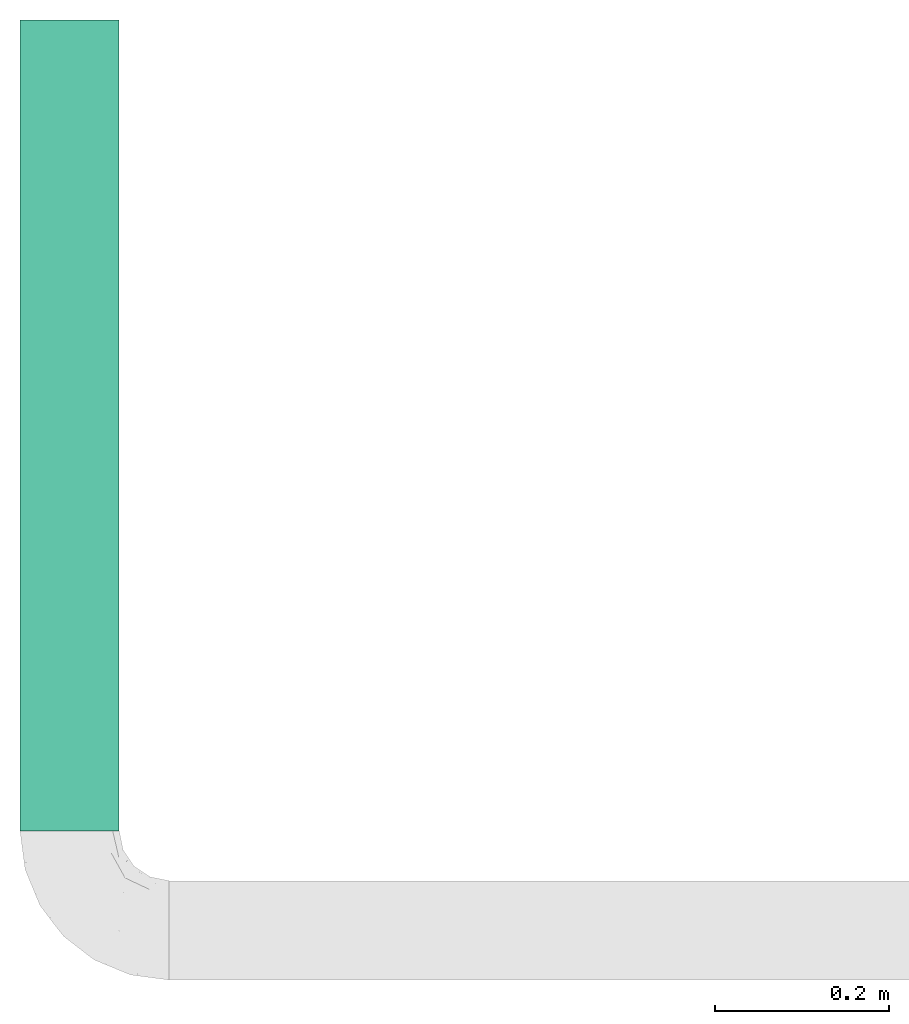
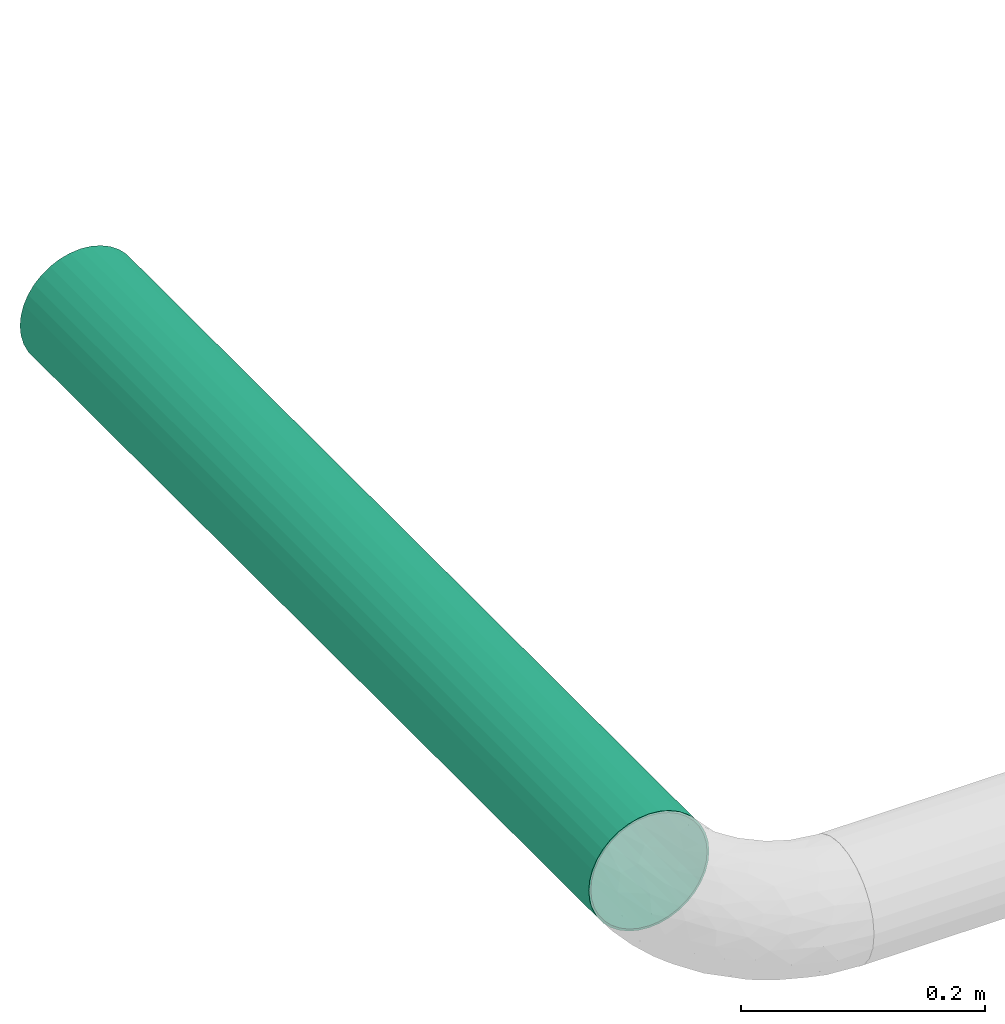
# One storey, part 2 of 2: 1 flow segment.
"""IFC2X3 building model written with IfcOpenShell, lengths in millimetres."""

from ifc_helpers import new_model, entity, si_unit, converted_unit, derived_unit, direction, frame, place, context, subcontext, project, spatial, faceted_brep, type_object, element, save


model = new_model("IFC2X3")

# Units and contexts
model_context = context("Model", 3, precision=0.01, world=frame((0.0, 4.29681676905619e-09, 0.0)), true_north=direction((4.01073788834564e-13, 1.0)))
plan_context = context("Plan", 3, precision=0.01, world=frame((0.0, 4.29681676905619e-09, 0.0)), true_north=direction((4.01073788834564e-13, 1.0)))
body_context = subcontext(model_context, "Body", "Model", "MODEL_VIEW")
ifc_project = project(units=[converted_unit("PLANEANGLEUNIT", "DEGREE", entity("IfcPositiveLengthMeasure", 0.0174532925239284), si_unit("PLANEANGLEUNIT", "RADIAN"), dimensions=[0, 0, 0, 0, 0, 0, 0]), si_unit("AREAUNIT", "SQUARE_METRE"), si_unit("LENGTHUNIT", "METRE", prefix="MILLI"), si_unit("MASSUNIT", "GRAM", prefix="KILO"), si_unit("POWERUNIT", "WATT"), si_unit("PRESSUREUNIT", "PASCAL"), si_unit("FORCEUNIT", "NEWTON", prefix="KILO"), si_unit("ELECTRICVOLTAGEUNIT", "VOLT"), si_unit("ELECTRICCURRENTUNIT", "AMPERE"), si_unit("THERMODYNAMICTEMPERATUREUNIT", "DEGREE_CELSIUS"), si_unit("TIMEUNIT", "SECOND"), si_unit("VOLUMEUNIT", "CUBIC_METRE"), derived_unit("LINEARVELOCITYUNIT", [(si_unit("LENGTHUNIT", "METRE"), 1), (si_unit("TIMEUNIT", "SECOND"), -1)]), derived_unit("VOLUMETRICFLOWRATEUNIT", [(si_unit("VOLUMEUNIT", "CUBIC_METRE"), 1), (si_unit("TIMEUNIT", "SECOND"), -1)]), derived_unit("THERMALTRANSMITTANCEUNIT", [(si_unit("POWERUNIT", "WATT"), 1), (si_unit("THERMODYNAMICTEMPERATUREUNIT", "KELVIN"), -1), (si_unit("AREAUNIT", "SQUARE_METRE"), -1)]), derived_unit("SOUNDPRESSUREUNIT", [(si_unit("PRESSUREUNIT", "PASCAL"), 1)])], contexts=[model_context, plan_context])

# Site, building, storey
site_placement = place(None, frame((0.0, -4.29681676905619e-09, 0.0), z_axis=(0.0, 0.0, 1.0), x_axis=(1.0, 0.0, 0.0)))
site = spatial("IfcSite", under=ifc_project, at=site_placement, Name="ENGM", CompositionType="ELEMENT")
building_placement = place(site_placement, frame((0.0, 4.29681676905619e-09, 0.0), z_axis=(0.0, 0.0, 1.0), x_axis=(1.0, 0.0, 0.0)))
building = spatial("IfcBuilding", under=site, at=building_placement, Name="TI", CompositionType="ELEMENT")
storey_placement = place(building_placement, frame((0.0, 0.0, 200300.0), z_axis=(0.0, 0.0, 1.0), x_axis=(1.0, 0.0, 0.0)))
storey = spatial("IfcBuildingStorey", under=building, at=storey_placement, Name="Nivå C", CompositionType="ELEMENT", Elevation=200300.0)

# Flow segment
pipe_segment_type = type_object("IfcPipeSegmentType", Name="Stålrør normaltykke", PredefinedType="RIGIDSEGMENT")
flow_segment_placement = place(storey_placement, frame((602433.58995, 698541.41935, 9979.99974999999), z_axis=(0.0, 0.0, 1.0), x_axis=(0.0, 1.0, 0.0)))
element("IfcFlowSegment", 1, at=flow_segment_placement, inside=storey, type_object=pipe_segment_type, Name="Stålrør normaltykke", context=body_context, shape_type="Brep", body=[
    faceted_brep([(934.08064999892, 55.1, 0.0), (934.08064999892, 54.2629071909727, -9.56801458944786), (0.0, 54.2629071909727, -9.56801458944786), (0.0, 55.1, 0.0), (934.08064999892, 51.7770634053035, -18.8453098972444), (0.0, 51.7770634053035, -18.8453098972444), (934.08064999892, 47.7179997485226, -27.55), (0.0, 47.7179997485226, -27.55), (934.08064999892, 42.2090488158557, -35.4175972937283), (0.0, 42.2090488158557, -35.4175972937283), (934.08064999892, 35.4175972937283, -42.2090488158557), (0.0, 35.4175972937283, -42.2090488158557), (934.08064999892, 27.55, -47.7179997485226), (0.0, 27.55, -47.7179997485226), (934.08064999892, 18.8453098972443, -51.7770634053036), (0.0, 18.8453098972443, -51.7770634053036), (934.08064999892, 9.56801458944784, -54.2629071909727), (0.0, 9.56801458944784, -54.2629071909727), (934.08064999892, -1.01217057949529e-14, -55.1), (0.0, -1.01217057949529e-14, -55.1), (934.08064999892, -9.56801458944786, -54.2629071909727), (0.0, -9.56801458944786, -54.2629071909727), (934.08064999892, -18.8453098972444, -51.7770634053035), (0.0, -18.8453098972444, -51.7770634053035), (934.08064999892, -27.55, -47.7179997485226), (0.0, -27.55, -47.7179997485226), (934.08064999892, -35.4175972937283, -42.2090488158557), (0.0, -35.4175972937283, -42.2090488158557), (934.08064999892, -42.2090488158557, -35.4175972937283), (0.0, -42.2090488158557, -35.4175972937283), (934.08064999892, -47.7179997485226, -27.55), (0.0, -47.7179997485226, -27.55), (934.08064999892, -51.7770634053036, -18.8453098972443), (0.0, -51.7770634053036, -18.8453098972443), (934.08064999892, -54.2629071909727, -9.56801458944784), (0.0, -54.2629071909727, -9.56801458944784), (934.08064999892, -55.1, 6.74780386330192e-15), (0.0, -55.1, 6.74780386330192e-15), (934.08064999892, -54.2629071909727, 9.56801458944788), (0.0, -54.2629071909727, 9.56801458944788), (934.08064999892, -51.7770634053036, 18.8453098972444), (0.0, -51.7770634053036, 18.8453098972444), (934.08064999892, -47.7179997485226, 27.55), (0.0, -47.7179997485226, 27.55), (934.08064999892, -42.2090488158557, 35.4175972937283), (0.0, -42.2090488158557, 35.4175972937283), (934.08064999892, -35.4175972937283, 42.2090488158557), (0.0, -35.4175972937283, 42.2090488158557), (934.08064999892, -27.55, 47.7179997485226), (0.0, -27.55, 47.7179997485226), (934.08064999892, -18.8453098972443, 51.7770634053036), (0.0, -18.8453098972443, 51.7770634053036), (934.08064999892, -9.56801458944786, 54.2629071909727), (0.0, -9.56801458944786, 54.2629071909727), (934.08064999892, 3.37390193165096e-15, 55.1), (0.0, 3.37390193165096e-15, 55.1), (934.08064999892, 9.56801458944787, 54.2629071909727), (0.0, 9.56801458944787, 54.2629071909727), (934.08064999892, 18.8453098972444, 51.7770634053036), (0.0, 18.8453098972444, 51.7770634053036), (934.08064999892, 27.55, 47.7179997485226), (0.0, 27.55, 47.7179997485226), (934.08064999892, 35.4175972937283, 42.2090488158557), (0.0, 35.4175972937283, 42.2090488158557), (934.08064999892, 42.2090488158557, 35.4175972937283), (0.0, 42.2090488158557, 35.4175972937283), (934.08064999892, 47.7179997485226, 27.55), (0.0, 47.7179997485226, 27.55), (934.08064999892, 51.7770634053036, 18.8453098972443), (0.0, 51.7770634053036, 18.8453098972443), (934.08064999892, 54.2629071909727, 9.56801458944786), (0.0, 54.2629071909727, 9.56801458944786), (934.08064999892, 56.2325226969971, -9.91531094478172), (934.08064999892, 57.1, 0.0), (0.0, 57.1, 0.0), (0.0, 56.2325226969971, -9.91531094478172), (934.08064999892, 56.2325226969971, 9.91531094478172), (0.0, 56.2325226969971, 9.91531094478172), (934.08064999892, 53.6564486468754, 19.5293501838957), (0.0, 53.6564486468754, 19.5293501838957), (934.08064999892, 49.4500505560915, 28.55), (0.0, 49.4500505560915, 28.55), (934.08064999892, 43.7411377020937, 36.7031725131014), (0.0, 43.7411377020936, 36.7031725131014), (934.08064999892, 36.7031725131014, 43.7411377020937), (0.0, 36.7031725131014, 43.7411377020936), (934.08064999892, 28.55, 49.4500505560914), (0.0, 28.55, 49.4500505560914), (934.08064999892, 19.5293501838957, 53.6564486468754), (0.0, 19.5293501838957, 53.6564486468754), (934.08064999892, 9.91531094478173, 56.2325226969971), (0.0, 9.91531094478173, 56.2325226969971), (934.08064999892, 3.49636661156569e-15, 57.1), (0.0, 3.49636661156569e-15, 57.1), (934.08064999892, -9.91531094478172, 56.2325226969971), (0.0, -9.91531094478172, 56.2325226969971), (934.08064999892, -19.5293501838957, 53.6564486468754), (0.0, -19.5293501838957, 53.6564486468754), (934.08064999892, -28.55, 49.4500505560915), (0.0, -28.55, 49.4500505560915), (934.08064999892, -36.7031725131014, 43.7411377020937), (0.0, -36.7031725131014, 43.7411377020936), (934.08064999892, -43.7411377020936, 36.7031725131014), (0.0, -43.7411377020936, 36.7031725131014), (934.08064999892, -49.4500505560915, 28.55), (0.0, -49.4500505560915, 28.55), (934.08064999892, -53.6564486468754, 19.5293501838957), (0.0, -53.6564486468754, 19.5293501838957), (934.08064999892, -56.2325226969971, 9.91531094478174), (0.0, -56.2325226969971, 9.91531094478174), (934.08064999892, -57.1, 6.99273322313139e-15), (0.0, -57.1, 6.99273322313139e-15), (934.08064999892, -56.2325226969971, -9.91531094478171), (0.0, -56.2325226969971, -9.91531094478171), (934.08064999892, -53.6564486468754, -19.5293501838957), (0.0, -53.6564486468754, -19.5293501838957), (934.08064999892, -49.4500505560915, -28.55), (0.0, -49.4500505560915, -28.55), (934.08064999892, -43.7411377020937, -36.7031725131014), (0.0, -43.7411377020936, -36.7031725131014), (934.08064999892, -36.7031725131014, -43.7411377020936), (0.0, -36.7031725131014, -43.7411377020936), (934.08064999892, -28.55, -49.4500505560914), (0.0, -28.55, -49.4500505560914), (934.08064999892, -19.5293501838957, -53.6564486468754), (0.0, -19.5293501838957, -53.6564486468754), (934.08064999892, -9.91531094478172, -56.2325226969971), (0.0, -9.91531094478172, -56.2325226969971), (934.08064999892, -1.04890998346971e-14, -57.1), (0.0, -1.04890998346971e-14, -57.1), (934.08064999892, 9.9153109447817, -56.2325226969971), (0.0, 9.9153109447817, -56.2325226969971), (934.08064999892, 19.5293501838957, -53.6564486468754), (0.0, 19.5293501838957, -53.6564486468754), (934.08064999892, 28.55, -49.4500505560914), (0.0, 28.55, -49.4500505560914), (934.08064999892, 36.7031725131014, -43.7411377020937), (0.0, 36.7031725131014, -43.7411377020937), (934.08064999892, 43.7411377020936, -36.7031725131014), (0.0, 43.7411377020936, -36.7031725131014), (934.08064999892, 49.4500505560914, -28.55), (0.0, 49.4500505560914, -28.55), (934.08064999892, 53.6564486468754, -19.5293501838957), (0.0, 53.6564486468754, -19.5293501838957)], [[[0, 1, 2, 3]], [[1, 4, 5, 2]], [[4, 6, 7, 5]], [[6, 8, 9, 7]], [[8, 10, 11, 9]], [[10, 12, 13, 11]], [[12, 14, 15, 13]], [[14, 16, 17, 15]], [[16, 18, 19, 17]], [[18, 20, 21, 19]], [[20, 22, 23, 21]], [[22, 24, 25, 23]], [[24, 26, 27, 25]], [[26, 28, 29, 27]], [[28, 30, 31, 29]], [[30, 32, 33, 31]], [[32, 34, 35, 33]], [[34, 36, 37, 35]], [[36, 38, 39, 37]], [[38, 40, 41, 39]], [[40, 42, 43, 41]], [[42, 44, 45, 43]], [[44, 46, 47, 45]], [[46, 48, 49, 47]], [[48, 50, 51, 49]], [[50, 52, 53, 51]], [[52, 54, 55, 53]], [[54, 56, 57, 55]], [[56, 58, 59, 57]], [[58, 60, 61, 59]], [[60, 62, 63, 61]], [[62, 64, 65, 63]], [[64, 66, 67, 65]], [[66, 68, 69, 67]], [[68, 70, 71, 69]], [[70, 0, 3, 71]], [[72, 73, 74, 75]], [[73, 76, 77, 74]], [[76, 78, 79, 77]], [[78, 80, 81, 79]], [[80, 82, 83, 81]], [[82, 84, 85, 83]], [[84, 86, 87, 85]], [[86, 88, 89, 87]], [[88, 90, 91, 89]], [[90, 92, 93, 91]], [[92, 94, 95, 93]], [[94, 96, 97, 95]], [[96, 98, 99, 97]], [[98, 100, 101, 99]], [[100, 102, 103, 101]], [[102, 104, 105, 103]], [[104, 106, 107, 105]], [[106, 108, 109, 107]], [[108, 110, 111, 109]], [[110, 112, 113, 111]], [[112, 114, 115, 113]], [[114, 116, 117, 115]], [[116, 118, 119, 117]], [[118, 120, 121, 119]], [[120, 122, 123, 121]], [[122, 124, 125, 123]], [[124, 126, 127, 125]], [[126, 128, 129, 127]], [[128, 130, 131, 129]], [[130, 132, 133, 131]], [[132, 134, 135, 133]], [[134, 136, 137, 135]], [[136, 138, 139, 137]], [[138, 140, 141, 139]], [[140, 142, 143, 141]], [[142, 72, 75, 143]], [[75, 74, 77, 79, 81, 83, 85, 87, 89, 91, 93, 95, 97, 99, 101, 103, 105, 107, 109, 111, 113, 115, 117, 119, 121, 123, 125, 127, 129, 131, 133, 135, 137, 139, 141, 143], [3, 2, 5, 7, 9, 11, 13, 15, 17, 19, 21, 23, 25, 27, 29, 31, 33, 35, 37, 39, 41, 43, 45, 47, 49, 51, 53, 55, 57, 59, 61, 63, 65, 67, 69, 71]], [[142, 140, 138, 136, 134, 132, 130, 128, 126, 124, 122, 120, 118, 116, 114, 112, 110, 108, 106, 104, 102, 100, 98, 96, 94, 92, 90, 88, 86, 84, 82, 80, 78, 76, 73, 72], [70, 68, 66, 64, 62, 60, 58, 56, 54, 52, 50, 48, 46, 44, 42, 40, 38, 36, 34, 32, 30, 28, 26, 24, 22, 20, 18, 16, 14, 12, 10, 8, 6, 4, 1, 0]]], orient=[[False], [False], [False], [False], [False], [False], [False], [False], [False], [False], [False], [False], [False], [False], [False], [False], [False], [False], [False], [False], [False], [False], [False], [False], [False], [False], [False], [False], [False], [False], [False], [False], [False], [False], [False], [False], [False], [False], [False], [False], [False], [False], [False], [False], [False], [False], [False], [False], [False], [False], [False], [False], [False], [False], [False], [False], [False], [False], [False], [False], [False], [False], [False], [False], [False], [False], [False], [False], [False], [False], [False], [False], [False, False], [False, False]]),
])

save(model, "model.ifc")
